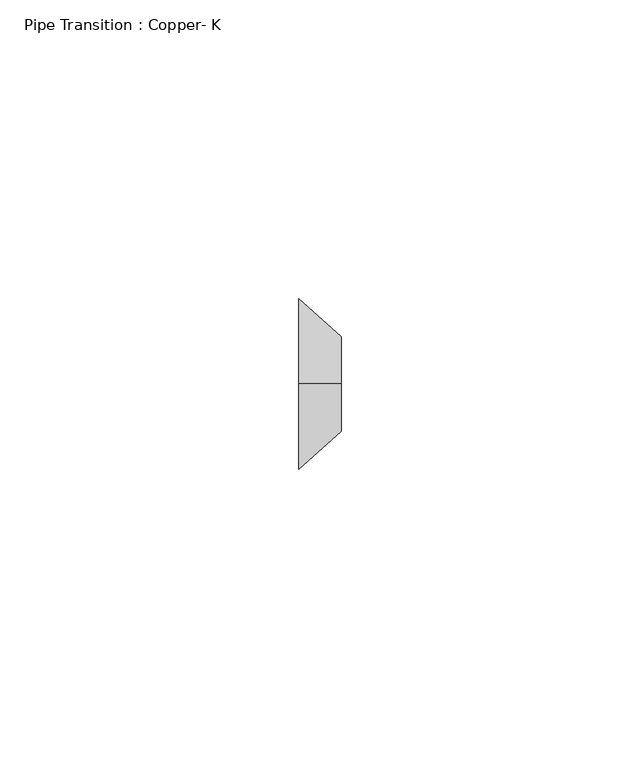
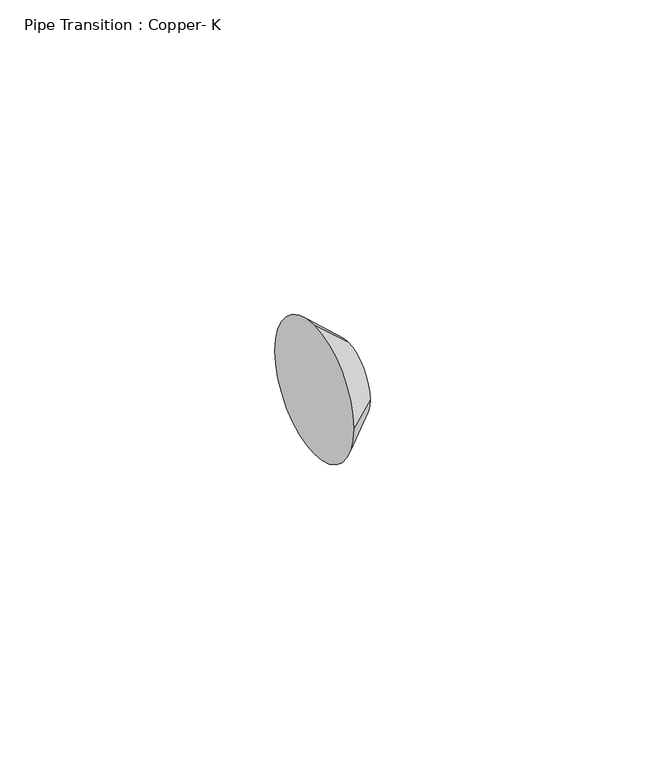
"""IFC4 building model written with IfcOpenShell, lengths in millimetres: pipe fitting geometry, Pipe Transition : Copper- K."""

from ifc_helpers import new_model, si_unit, frame, origin, place, context, project, spatial, circle_curve, source, transform, mapped, element, save
from ifc_brep_helpers import plane_surface, spline_surface, advanced_brep


def pipe_transition_copper_k_f6820026(model_context):
    return source(origin(), model_context, "Body", "AdvancedBrep", [
        advanced_brep(
        [(7.14375, 0.0, 7.983663), (7.14375, -7.9375, 0.046163), (7.14375, 0.0, -7.891337), (7.14375, 7.9375, 0.046163), (0.0, 0.0, 14.2875), (0.0, 14.2875, 0.0), (0.0, 0.0, -14.2875), (0.0, -14.2875, 0.0)],
        [
            (0, 1, circle_curve(frame((7.14375, 0.0, 0.046163), z_axis=(1.0, 0.0, 0.0), x_axis=(0.0, 1.0, 0.0)), 7.9375)),
            (1, 2, circle_curve(frame((7.14375, 0.0, 0.046163), z_axis=(1.0, 0.0, 0.0), x_axis=(0.0, 1.0, 0.0)), 7.9375)),
            (2, 3, circle_curve(frame((7.14375, 0.0, 0.046163), z_axis=(1.0, 0.0, 0.0), x_axis=(0.0, 1.0, 0.0)), 7.9375)),
            (3, 0, circle_curve(frame((7.14375, 0.0, 0.046163), z_axis=(1.0, 0.0, 0.0), x_axis=(0.0, 1.0, 0.0)), 7.9375)),
            (4, 5, circle_curve(frame((0.0, 0.0, 0.0), z_axis=(-1.0, 0.0, 0.0), x_axis=(0.0, 1.0, 0.0)), 14.2875)),
            (5, 6, circle_curve(frame((0.0, 0.0, 0.0), z_axis=(-1.0, 0.0, 0.0), x_axis=(0.0, 1.0, 0.0)), 14.2875)),
            (6, 7, circle_curve(frame((0.0, 0.0, 0.0), z_axis=(-1.0, 0.0, 0.0), x_axis=(0.0, 1.0, 0.0)), 14.2875)),
            (7, 4, circle_curve(frame((0.0, 0.0, 0.0), z_axis=(-1.0, 0.0, 0.0), x_axis=(0.0, 1.0, 0.0)), 14.2875)),
            (7, 1),
            (0, 4),
            (6, 2),
            (5, 3),
        ],
        [
            plane_surface(frame((7.14375, 0.0, 0.046163), z_axis=(1.0, 0.0, 0.0), x_axis=(0.0, -1.0, 0.0))),
            plane_surface(frame((0.0, 0.0, 0.0), z_axis=(-1.0, 0.0, 0.0), x_axis=(0.0, -1.0, 0.0))),
            spline_surface(2, 1, [[(0.0, 0.0, 14.2875), (7.14375, 0.0, 7.983663)], [(0.0, -14.2875, 14.2875), (7.14375, -7.9375, 7.983663)], [(0.0, -14.2875, 0.0), (7.14375, -7.9375, 0.046163)]], [3, 3], [2, 2], [0.0, 1.0], [0.0, 1.0], weights=[[1.0, 1.0], [0.7071067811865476, 0.7071067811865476], [1.0, 1.0]]),
            spline_surface(2, 1, [[(0.0, -14.2875, 0.0), (7.14375, -7.9375, 0.046163)], [(0.0, -14.2875, -14.2875), (7.14375, -7.9375, -7.891337)], [(0.0, 0.0, -14.2875), (7.14375, 0.0, -7.891337)]], [3, 3], [2, 2], [0.0, 1.0], [0.0, 1.0], weights=[[1.0, 1.0], [0.7071067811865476, 0.7071067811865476], [1.0, 1.0]]),
            spline_surface(2, 1, [[(0.0, 0.0, -14.2875), (7.14375, 0.0, -7.891337)], [(0.0, 14.2875, -14.2875), (7.14375, 7.9375, -7.891337)], [(0.0, 14.2875, 0.0), (7.14375, 7.9375, 0.046163)]], [3, 3], [2, 2], [0.0, 1.0], [0.0, 1.0], weights=[[1.0, 1.0], [0.7071067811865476, 0.7071067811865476], [1.0, 1.0]]),
            spline_surface(2, 1, [[(0.0, 14.2875, 0.0), (7.14375, 7.9375, 0.046163)], [(0.0, 14.2875, 14.2875), (7.14375, 7.9375, 7.983663)], [(0.0, 0.0, 14.2875), (7.14375, 0.0, 7.983663)]], [3, 3], [2, 2], [0.0, 1.0], [0.0, 1.0], weights=[[1.0, 1.0], [0.7071067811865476, 0.7071067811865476], [1.0, 1.0]]),
        ],
        [
            (0, [[1, 2, 3, 4]]),
            (1, [[5, 6, 7, 8]]),
            (2, [[-8, 9, -1, 10]]),
            (3, [[-7, 11, -2, -9]]),
            (4, [[-6, 12, -3, -11]]),
            (5, [[-5, -10, -4, -12]]),
        ],
    ),
        advanced_brep(
        [(7.14375, 0.0, 7.983663), (7.14375, -7.9375, 0.046163), (7.14375, 0.0, -7.891337), (7.14375, 7.9375, 0.046163), (0.0, 0.0, 14.2875), (0.0, 14.2875, 0.0), (0.0, 0.0, -14.2875), (0.0, -14.2875, 0.0)],
        [
            (0, 1, circle_curve(frame((7.14375, 0.0, 0.046163), z_axis=(1.0, 0.0, 0.0), x_axis=(0.0, 1.0, 0.0)), 7.9375)),
            (1, 2, circle_curve(frame((7.14375, 0.0, 0.046163), z_axis=(1.0, 0.0, 0.0), x_axis=(0.0, 1.0, 0.0)), 7.9375)),
            (2, 3, circle_curve(frame((7.14375, 0.0, 0.046163), z_axis=(1.0, 0.0, 0.0), x_axis=(0.0, 1.0, 0.0)), 7.9375)),
            (3, 0, circle_curve(frame((7.14375, 0.0, 0.046163), z_axis=(1.0, 0.0, 0.0), x_axis=(0.0, 1.0, 0.0)), 7.9375)),
            (4, 5, circle_curve(frame((0.0, 0.0, 0.0), z_axis=(-1.0, 0.0, 0.0), x_axis=(0.0, 1.0, 0.0)), 14.2875)),
            (5, 6, circle_curve(frame((0.0, 0.0, 0.0), z_axis=(-1.0, 0.0, 0.0), x_axis=(0.0, 1.0, 0.0)), 14.2875)),
            (6, 7, circle_curve(frame((0.0, 0.0, 0.0), z_axis=(-1.0, 0.0, 0.0), x_axis=(0.0, 1.0, 0.0)), 14.2875)),
            (7, 4, circle_curve(frame((0.0, 0.0, 0.0), z_axis=(-1.0, 0.0, 0.0), x_axis=(0.0, 1.0, 0.0)), 14.2875)),
            (7, 1),
            (0, 4),
            (6, 2),
            (5, 3),
        ],
        [
            plane_surface(frame((7.14375, 0.0, 0.046163), z_axis=(1.0, 0.0, 0.0), x_axis=(0.0, -1.0, 0.0))),
            plane_surface(frame((0.0, 0.0, 0.0), z_axis=(-1.0, 0.0, 0.0), x_axis=(0.0, -1.0, 0.0))),
            spline_surface(2, 1, [[(0.0, 0.0, 14.2875), (7.14375, 0.0, 7.983663)], [(0.0, -14.2875, 14.2875), (7.14375, -7.9375, 7.983663)], [(0.0, -14.2875, 0.0), (7.14375, -7.9375, 0.046163)]], [3, 3], [2, 2], [0.0, 1.0], [0.0, 1.0], weights=[[1.0, 1.0], [0.7071067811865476, 0.7071067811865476], [1.0, 1.0]]),
            spline_surface(2, 1, [[(0.0, -14.2875, 0.0), (7.14375, -7.9375, 0.046163)], [(0.0, -14.2875, -14.2875), (7.14375, -7.9375, -7.891337)], [(0.0, 0.0, -14.2875), (7.14375, 0.0, -7.891337)]], [3, 3], [2, 2], [0.0, 1.0], [0.0, 1.0], weights=[[1.0, 1.0], [0.7071067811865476, 0.7071067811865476], [1.0, 1.0]]),
            spline_surface(2, 1, [[(0.0, 0.0, -14.2875), (7.14375, 0.0, -7.891337)], [(0.0, 14.2875, -14.2875), (7.14375, 7.9375, -7.891337)], [(0.0, 14.2875, 0.0), (7.14375, 7.9375, 0.046163)]], [3, 3], [2, 2], [0.0, 1.0], [0.0, 1.0], weights=[[1.0, 1.0], [0.7071067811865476, 0.7071067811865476], [1.0, 1.0]]),
            spline_surface(2, 1, [[(0.0, 14.2875, 0.0), (7.14375, 7.9375, 0.046163)], [(0.0, 14.2875, 14.2875), (7.14375, 7.9375, 7.983663)], [(0.0, 0.0, 14.2875), (7.14375, 0.0, 7.983663)]], [3, 3], [2, 2], [0.0, 1.0], [0.0, 1.0], weights=[[1.0, 1.0], [0.7071067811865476, 0.7071067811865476], [1.0, 1.0]]),
        ],
        [
            (0, [[1, 2, 3, 4]]),
            (1, [[5, 6, 7, 8]]),
            (2, [[-8, 9, -1, 10]]),
            (3, [[-7, 11, -2, -9]]),
            (4, [[-6, 12, -3, -11]]),
            (5, [[-5, -10, -4, -12]]),
        ],
    ),
    ])


if __name__ == "__main__":
    model = new_model("IFC4")
    model_context = context("Model", 3, world=origin())
    ifc_project = project(units=[si_unit("LENGTHUNIT", "METRE", prefix="MILLI")], contexts=[model_context])
    site = spatial("IfcSite", under=ifc_project)
    building = spatial("IfcBuilding", under=site)
    placement = place(None, origin())
    pipe_transition_copper_k_shape = pipe_transition_copper_k_f6820026(model_context)
    element("IfcPipeFitting", 1, ObjectType="Pipe Transition : Copper- K", at=placement, inside=building, context=model_context, shape_type="MappedRepresentation", body=[
        mapped(pipe_transition_copper_k_shape, transform((0.0, 0.0, 0.0), x_axis=(1.0, 0.0, 0.0), y_axis=(0.0, 1.0, 0.0), z_axis=(0.0, 0.0, 1.0))),
    ])
    save(model, "model.ifc")
